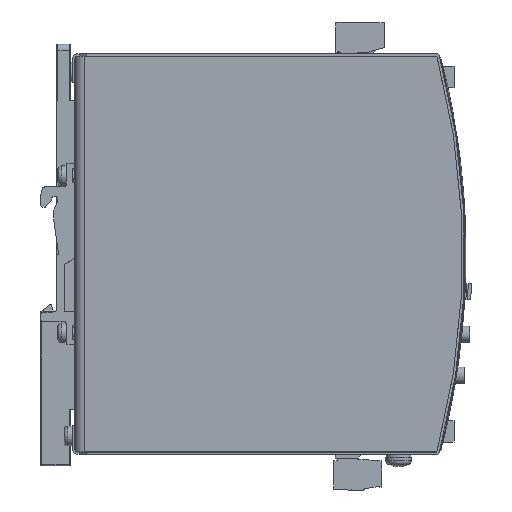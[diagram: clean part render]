
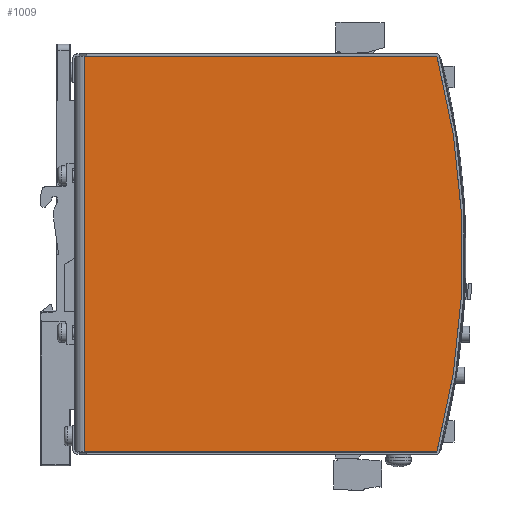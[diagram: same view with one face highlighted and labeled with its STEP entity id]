
A CAD part, front view. The second image highlights one B-rep face of the part: STEP entity #1009.
In plain terms, the highlighted planar face has unit normal (0, -1, 0) as drawn and (0, 1, 0) by its records, which use the part's own axes.
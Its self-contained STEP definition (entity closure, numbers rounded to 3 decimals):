
#942=CARTESIAN_POINT('',(112.079,23.,61.15));
#943=VERTEX_POINT('',#942);
#944=CARTESIAN_POINT('',(112.079,23.,-61.15));
#945=VERTEX_POINT('',#944);
#946=CARTESIAN_POINT('',(-120.,23.,0.));
#947=DIRECTION('',(0.0,1.,0.0));
#948=DIRECTION('',(-0.967,0.0,-0.255));
#949=AXIS2_PLACEMENT_3D('',#946,#947,#948);
#950=CIRCLE('',#949,240.0);
#951=EDGE_CURVE('',#943,#945,#950,.T.);
#979=CARTESIAN_POINT('',(0.,23.,-61.15));
#980=DIRECTION('',(0.0,1.0,0.0));
#981=DIRECTION('',(0.0,0.0,1.0));
#982=AXIS2_PLACEMENT_3D('',#979,#980,#981);
#983=PLANE('',#982);
#984=ORIENTED_EDGE('',*,*,#951,.T.);
#985=CARTESIAN_POINT('',(3.,23.,-61.15));
#986=VERTEX_POINT('',#985);
#987=CARTESIAN_POINT('',(3.,23.,-61.15));
#988=DIRECTION('',(1.0,0.0,0.0));
#989=VECTOR('',#988,109.079);
#990=LINE('',#987,#989);
#991=EDGE_CURVE('',#986,#945,#990,.T.);
#992=ORIENTED_EDGE('',*,*,#991,.F.);
#993=CARTESIAN_POINT('',(3.,23.,61.15));
#994=VERTEX_POINT('',#993);
#995=CARTESIAN_POINT('',(3.,23.,-61.15));
#996=DIRECTION('',(0.0,0.0,1.0));
#997=VECTOR('',#996,122.3);
#998=LINE('',#995,#997);
#999=EDGE_CURVE('',#986,#994,#998,.T.);
#1000=ORIENTED_EDGE('',*,*,#999,.T.);
#1001=CARTESIAN_POINT('',(3.,23.,61.15));
#1002=DIRECTION('',(1.0,0.0,0.0));
#1003=VECTOR('',#1002,109.079);
#1004=LINE('',#1001,#1003);
#1005=EDGE_CURVE('',#994,#943,#1004,.T.);
#1006=ORIENTED_EDGE('',*,*,#1005,.T.);
#1007=EDGE_LOOP('',(#984,#992,#1000,#1006));
#1008=FACE_OUTER_BOUND('',#1007,.T.);
#1009=ADVANCED_FACE('',(#1008),#983,.T.);
